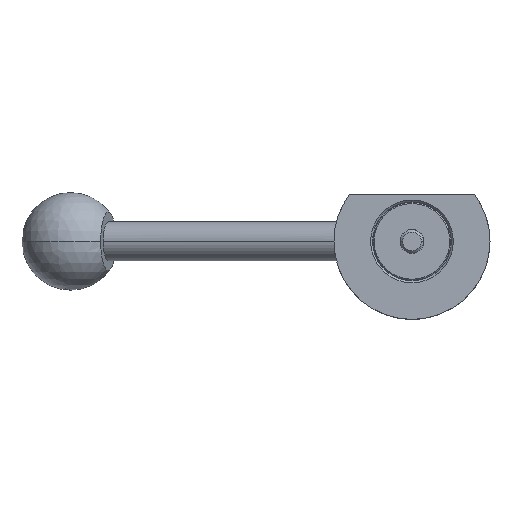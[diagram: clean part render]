
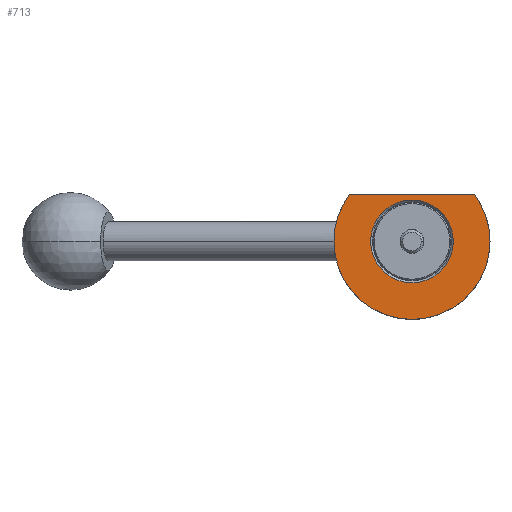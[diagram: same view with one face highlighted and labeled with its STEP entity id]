
A CAD part, front view. The second image highlights one B-rep face of the part: STEP entity #713.
In plain terms, the highlighted planar face has unit normal (0, -1, 0).
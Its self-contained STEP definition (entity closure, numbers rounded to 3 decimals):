
#11 = ORIENTED_EDGE ( 'NONE', *, *, #1856, .F. ) ;
#26 = DIRECTION ( 'NONE',  ( -1., 0., 0. ) ) ;
#38 = CIRCLE ( 'NONE', #526, 20. ) ;
#66 = DIRECTION ( 'NONE',  ( 1., 0., 0. ) ) ;
#86 = VECTOR ( 'NONE', #339, 1000. ) ;
#152 = CIRCLE ( 'NONE', #1202, 10.6 ) ;
#177 = DIRECTION ( 'NONE',  ( -1., 0., 0. ) ) ;
#208 = EDGE_CURVE ( 'NONE', #1292, #702, #1842, .T. ) ;
#217 = CIRCLE ( 'NONE', #472, 20. ) ;
#248 = VERTEX_POINT ( 'NONE', #1626 ) ;
#287 = CARTESIAN_POINT ( 'NONE',  ( 10.6, -10., 0. ) ) ;
#300 = DIRECTION ( 'NONE',  ( 0., 1., 0. ) ) ;
#339 = DIRECTION ( 'NONE',  ( -1., 0., 0. ) ) ;
#410 = VERTEX_POINT ( 'NONE', #718 ) ;
#449 = VERTEX_POINT ( 'NONE', #1504 ) ;
#460 = DIRECTION ( 'NONE',  ( 0., 1., 0. ) ) ;
#472 = AXIS2_PLACEMENT_3D ( 'NONE', #1575, #665, #26 ) ;
#476 = LINE ( 'NONE', #1090, #86 ) ;
#526 = AXIS2_PLACEMENT_3D ( 'NONE', #1755, #460, #1435 ) ;
#549 = ORIENTED_EDGE ( 'NONE', *, *, #1509, .T. ) ;
#665 = DIRECTION ( 'NONE',  ( 0., 1., 0. ) ) ;
#666 = DIRECTION ( 'NONE',  ( 0., 1., 0. ) ) ;
#702 = VERTEX_POINT ( 'NONE', #1313 ) ;
#713 = ADVANCED_FACE ( 'NONE', ( #1798, #859 ), #1488, .T. ) ;
#718 = CARTESIAN_POINT ( 'NONE',  ( 20., -10., 0. ) ) ;
#859 = FACE_OUTER_BOUND ( 'NONE', #1052, .T. ) ;
#1052 = EDGE_LOOP ( 'NONE', ( #2019, #549, #1211, #11 ) ) ;
#1084 = CARTESIAN_POINT ( 'NONE',  ( 0., -10., 0. ) ) ;
#1090 = CARTESIAN_POINT ( 'NONE',  ( -10.6, -10., 11.999 ) ) ;
#1144 = CARTESIAN_POINT ( 'NONE',  ( 0., -10., 0. ) ) ;
#1168 = CARTESIAN_POINT ( 'NONE',  ( -20., -10., 0. ) ) ;
#1202 = AXIS2_PLACEMENT_3D ( 'NONE', #1792, #1955, #1640 ) ;
#1211 = ORIENTED_EDGE ( 'NONE', *, *, #208, .F. ) ;
#1251 = EDGE_LOOP ( 'NONE', ( #1904, #1611 ) ) ;
#1259 = AXIS2_PLACEMENT_3D ( 'NONE', #1286, #1952, #66 ) ;
#1286 = CARTESIAN_POINT ( 'NONE',  ( -10.6, -10., 0. ) ) ;
#1292 = VERTEX_POINT ( 'NONE', #1168 ) ;
#1313 = CARTESIAN_POINT ( 'NONE',  ( -16.001, -10., 11.999 ) ) ;
#1427 = VERTEX_POINT ( 'NONE', #287 ) ;
#1435 = DIRECTION ( 'NONE',  ( -1., 0., 0. ) ) ;
#1488 = PLANE ( 'NONE',  #1259 ) ;
#1496 = AXIS2_PLACEMENT_3D ( 'NONE', #1144, #666, #1607 ) ;
#1504 = CARTESIAN_POINT ( 'NONE',  ( -10.6, -10., 0. ) ) ;
#1509 = EDGE_CURVE ( 'NONE', #248, #702, #476, .T. ) ;
#1575 = CARTESIAN_POINT ( 'NONE',  ( 0., -10., 0. ) ) ;
#1607 = DIRECTION ( 'NONE',  ( -1., 0., 0. ) ) ;
#1610 = EDGE_CURVE ( 'NONE', #1427, #449, #152, .T. ) ;
#1611 = ORIENTED_EDGE ( 'NONE', *, *, #2058, .T. ) ;
#1626 = CARTESIAN_POINT ( 'NONE',  ( 16.001, -10., 11.999 ) ) ;
#1640 = DIRECTION ( 'NONE',  ( -1., 0., 0. ) ) ;
#1755 = CARTESIAN_POINT ( 'NONE',  ( 0., -10., 0. ) ) ;
#1792 = CARTESIAN_POINT ( 'NONE',  ( 0., -10., 0. ) ) ;
#1798 = FACE_BOUND ( 'NONE', #1251, .T. ) ;
#1842 = CIRCLE ( 'NONE', #1496, 20. ) ;
#1856 = EDGE_CURVE ( 'NONE', #410, #1292, #217, .T. ) ;
#1904 = ORIENTED_EDGE ( 'NONE', *, *, #1610, .T. ) ;
#1952 = DIRECTION ( 'NONE',  ( 0., -1., 0. ) ) ;
#1955 = DIRECTION ( 'NONE',  ( 0., 1., 0. ) ) ;
#2001 = CIRCLE ( 'NONE', #2036, 10.6 ) ;
#2019 = ORIENTED_EDGE ( 'NONE', *, *, #2020, .F. ) ;
#2020 = EDGE_CURVE ( 'NONE', #248, #410, #38, .T. ) ;
#2036 = AXIS2_PLACEMENT_3D ( 'NONE', #1084, #300, #177 ) ;
#2058 = EDGE_CURVE ( 'NONE', #449, #1427, #2001, .T. ) ;
